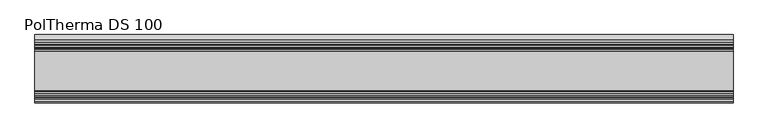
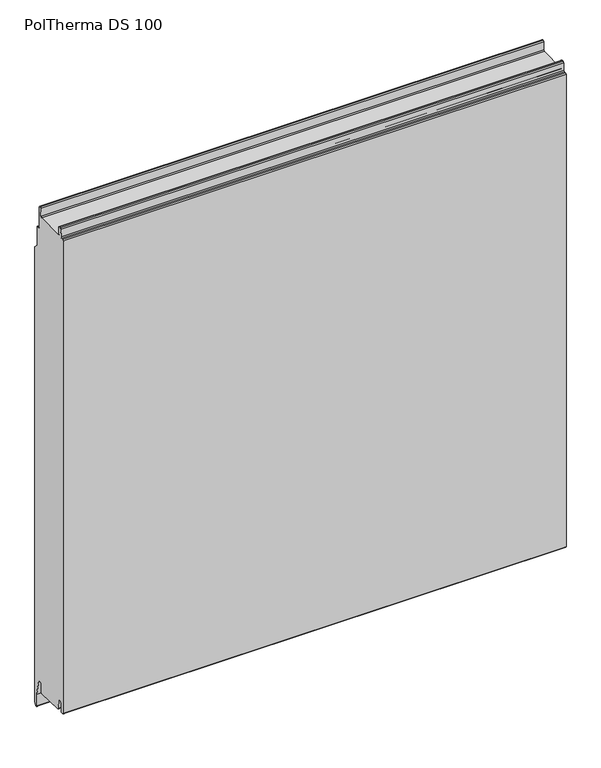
"""IFC4 building model written with IfcOpenShell, lengths in millimetres: plate geometry, Europanels_Poltherma DS_Hz : PolTherma DS 100."""

from ifc_helpers import new_model, si_unit, frame, origin, place, context, project, spatial, polyline, circle_curve, source, transform, mapped, element, save
from ifc_brep_helpers import plane_surface, cylinder_surface, revolved_surface, advanced_brep


def poltherma_ds_100_de707eb4(model_context):
    return source(origin(), model_context, "Body", "AdvancedBrep", [
        advanced_brep(
        [(512.5, 50.0, 25.6419265), (512.5, 50.0, 1006.0403652), (512.5, 41.9993224, 1014.5306815), (512.5, 41.9993224, 1053.783709), (512.5, 39.5003388, 1056.2826927), (512.5, 36.4964005, 1056.2826927), (512.5, 33.9927587, 1058.7863345), (512.5, 33.9927587, 1102.0320728), (512.5, 31.7320949, 1104.2927366), (512.5, 29.3625931, 1102.12865), (512.5, 28.6828547, 1085.5928147), (512.5, 26.3196392, 1083.2879082), (512.5, -31.7227962, 1081.7845566), (512.5, -33.7207985, 1083.6951741), (512.5, -34.4459609, 1099.8739391), (512.5, -36.4439626, 1101.784556), (512.5, -39.1932037, 1101.784556), (512.5, -41.1890147, 1099.9139331), (512.5, -42.2429781, 1083.6551788), (512.5, -44.2387891, 1081.784556), (512.5, -48.0, 1081.784556), (512.5, -50.0, 1079.784556), (512.5, -50.0, 61.7823467), (512.5, -48.0, 59.7823467), (512.5, -45.2728415, 59.7823467), (512.5, -43.283254, 61.5785287), (512.5, -42.3087485, 79.5912504), (512.5, -39.3243673, 82.2855234), (512.5, -36.3756985, 82.2855234), (512.5, -33.3927633, 79.6050511), (512.5, -32.3401385, 61.3459555), (512.5, -30.600093, 59.7823467), (512.5, 25.1828499, 58.2823467), (512.5, 27.6811293, 60.6896109), (512.5, 28.3408974, 78.4636008), (512.5, 30.834547, 80.7855234), (512.5, 34.241537, 80.7855234), (512.5, 36.5910205, 79.139881), (512.5, 43.0, 46.1009555), (512.5, 43.0, 20.9596348), (512.5, 46.7337298, 19.9625485), (-512.5, 50.0, 25.6419265), (-512.5, 46.7337298, 19.9625485), (-512.5, 43.0, 20.9596348), (-512.5, 43.0, 46.1009555), (-512.5, 36.5910205, 79.139881), (-512.5, 34.241537, 80.7855234), (-512.5, 30.834547, 80.7855234), (-512.5, 28.3408974, 78.4636008), (-512.5, 27.6811293, 60.6896109), (-512.5, 25.1828499, 58.2823467), (-512.5, -30.600093, 59.7823467), (-512.5, -32.3401385, 61.3459555), (-512.5, -33.3927633, 79.6050511), (-512.5, -36.3756985, 82.2855234), (-512.5, -39.3243673, 82.2855234), (-512.5, -42.3087485, 79.5912504), (-512.5, -43.283254, 61.5785287), (-512.5, -45.2728415, 59.7823467), (-512.5, -48.0, 59.7823467), (-512.5, -50.0, 61.7823467), (-512.5, -50.0, 1079.784556), (-512.5, -48.0, 1081.784556), (-512.5, -44.2387891, 1081.784556), (-512.5, -42.2429781, 1083.6551788), (-512.5, -41.1890147, 1099.9139331), (-512.5, -39.1932037, 1101.784556), (-512.5, -36.4439626, 1101.784556), (-512.5, -34.4459609, 1099.8739391), (-512.5, -33.7221833, 1083.6951728), (-512.5, -31.7227962, 1081.7845566), (-512.5, 26.3196392, 1083.2879082), (-512.5, 28.6828547, 1085.5928147), (-512.5, 29.3363956, 1102.1234406), (-512.5, 31.7320949, 1104.2927366), (-512.5, 33.9927587, 1102.0320728), (-512.5, 33.9927587, 1058.7863345), (-512.5, 36.4964005, 1056.2826927), (-512.5, 39.5003388, 1056.2826927), (-512.5, 41.9993224, 1053.783709), (-512.5, 41.9993224, 1014.5306815), (-512.5, 50.0, 1006.0403652)],
        [
            (0, 1),
            (1, 2),
            (2, 3),
            (3, 4, circle_curve(frame((512.5, 39.5003388, 1053.783709), z_axis=(1.0, 0.0, 0.0), x_axis=(0.0, 1.0, 0.0)), 2.4989837)),
            (4, 5),
            (5, 6, circle_curve(frame((512.5, 36.4964005, 1058.7863345), z_axis=(-1.0, 0.0, 0.0), x_axis=(0.0, 1.0, 0.0)), 2.5036418)),
            (6, 7),
            (7, 8, circle_curve(frame((512.5, 31.7320949, 1102.0320728), z_axis=(1.0, 0.0, 0.0), x_axis=(0.0, 1.0, 0.0)), 2.2606638)),
            (8, 9, circle_curve(frame((512.5, 31.6169847, 1102.0395223), z_axis=(1.0, 0.0, 0.0), x_axis=(0.0, 1.0, 0.0)), 2.2561527)),
            (9, 10),
            (10, 11, circle_curve(frame((512.5, 26.1902185, 1085.784556), z_axis=(-1.0, 0.0, 0.0), x_axis=(0.0, 1.0, 0.0)), 2.5)),
            (11, 12),
            (12, 13, circle_curve(frame((512.5, -31.7227962, 1083.7845572), z_axis=(-1.0, 0.0, 0.0), x_axis=(0.0, 1.0, 0.0)), 2.0000006)),
            (13, 14),
            (14, 15, circle_curve(frame((512.5, -36.4439626, 1099.784556), z_axis=(1.0, 0.0, 0.0), x_axis=(0.0, 1.0, 0.0)), 2.0)),
            (15, 16),
            (16, 17, circle_curve(frame((512.5, -39.1932037, 1099.784556), z_axis=(1.0, 0.0, 0.0), x_axis=(0.0, 1.0, 0.0)), 2.0)),
            (17, 18),
            (18, 19, circle_curve(frame((512.5, -44.2387891, 1083.784556), z_axis=(-1.0, 0.0, 0.0), x_axis=(0.0, 1.0, 0.0)), 2.0)),
            (19, 20),
            (20, 21, circle_curve(frame((512.5, -48.0, 1079.784556), z_axis=(1.0, 0.0, 0.0), x_axis=(0.0, 1.0, 0.0)), 2.0)),
            (21, 22),
            (22, 23, circle_curve(frame((512.5, -48.0, 61.7823467), z_axis=(1.0, 0.0, 0.0), x_axis=(0.0, 1.0, 0.0)), 2.0)),
            (23, 24),
            (24, 25, circle_curve(frame((512.5, -45.2728415, 61.7823467), z_axis=(1.0, 0.0, 0.0), x_axis=(0.0, 1.0, 0.0)), 2.0)),
            (25, 26),
            (26, 27, circle_curve(frame((512.5, -39.3243673, 79.2855234), z_axis=(-1.0, 0.0, 0.0), x_axis=(0.0, 1.0, 0.0)), 3.0)),
            (27, 28),
            (28, 29, circle_curve(frame((512.5, -36.3756985, 79.2855234), z_axis=(-1.0, 0.0, 0.0), x_axis=(0.0, 1.0, 0.0)), 3.0)),
            (29, 30),
            (30, 31, circle_curve(frame((512.5, -30.600093, 61.5323467), z_axis=(1.0, 0.0, 0.0), x_axis=(0.0, 1.0, 0.0)), 1.75)),
            (31, 32),
            (32, 33, circle_curve(frame((512.5, 25.1828499, 60.7823467), z_axis=(1.0, 0.0, 0.0), x_axis=(0.0, 1.0, 0.0)), 2.5)),
            (33, 34),
            (34, 35, circle_curve(frame((512.5, 30.834547, 78.2855234), z_axis=(-1.0, 0.0, 0.0), x_axis=(0.0, 1.0, 0.0)), 2.5)),
            (35, 36),
            (36, 37, circle_curve(frame((512.5, 34.241537, 78.2855234), z_axis=(-1.0, 0.0, 0.0), x_axis=(0.0, 1.0, 0.0)), 2.5)),
            (37, 38),
            (38, 39),
            (39, 40, circle_curve(frame((512.5, 45.0, 20.9596348), z_axis=(1.0, 0.0, 0.0), x_axis=(0.0, 1.0, 0.0)), 2.0)),
            (40, 0),
            (41, 42),
            (42, 43, circle_curve(frame((-512.5, 45.0, 20.9596348), z_axis=(-1.0, 0.0, 0.0), x_axis=(0.0, 1.0, 0.0)), 2.0)),
            (43, 44),
            (44, 45),
            (45, 46, circle_curve(frame((-512.5, 34.241537, 78.2855234), z_axis=(1.0, 0.0, 0.0), x_axis=(0.0, 1.0, 0.0)), 2.5)),
            (46, 47),
            (47, 48, circle_curve(frame((-512.5, 30.834547, 78.2855234), z_axis=(1.0, 0.0, 0.0), x_axis=(0.0, 1.0, 0.0)), 2.5)),
            (48, 49),
            (49, 50, circle_curve(frame((-512.5, 25.1828499, 60.7823467), z_axis=(-1.0, 0.0, 0.0), x_axis=(0.0, 1.0, 0.0)), 2.5)),
            (50, 51),
            (51, 52, circle_curve(frame((-512.5, -30.600093, 61.5323467), z_axis=(-1.0, 0.0, 0.0), x_axis=(0.0, 1.0, 0.0)), 1.75)),
            (52, 53),
            (53, 54, circle_curve(frame((-512.5, -36.3756985, 79.2855234), z_axis=(1.0, 0.0, 0.0), x_axis=(0.0, 1.0, 0.0)), 3.0)),
            (54, 55),
            (55, 56, circle_curve(frame((-512.5, -39.3243673, 79.2855234), z_axis=(1.0, 0.0, 0.0), x_axis=(0.0, 1.0, 0.0)), 3.0)),
            (56, 57),
            (57, 58, circle_curve(frame((-512.5, -45.2728415, 61.7823467), z_axis=(-1.0, 0.0, 0.0), x_axis=(0.0, 1.0, 0.0)), 2.0)),
            (58, 59),
            (59, 60, circle_curve(frame((-512.5, -48.0, 61.7823467), z_axis=(-1.0, 0.0, 0.0), x_axis=(0.0, 1.0, 0.0)), 2.0)),
            (60, 61),
            (61, 62, circle_curve(frame((-512.5, -48.0, 1079.784556), z_axis=(-1.0, 0.0, 0.0), x_axis=(0.0, 1.0, 0.0)), 2.0)),
            (62, 63),
            (63, 64, circle_curve(frame((-512.5, -44.2387891, 1083.784556), z_axis=(1.0, 0.0, 0.0), x_axis=(0.0, 1.0, 0.0)), 2.0)),
            (64, 65),
            (65, 66, circle_curve(frame((-512.5, -39.1932037, 1099.784556), z_axis=(-1.0, 0.0, 0.0), x_axis=(0.0, 1.0, 0.0)), 2.0)),
            (66, 67),
            (67, 68, circle_curve(frame((-512.5, -36.4439626, 1099.784556), z_axis=(-1.0, 0.0, 0.0), x_axis=(0.0, 1.0, 0.0)), 2.0)),
            (68, 69),
            (69, 70, circle_curve(frame((-512.5, -31.7227962, 1083.7845572), z_axis=(1.0, 0.0, 0.0), x_axis=(0.0, 1.0, 0.0)), 2.0000006)),
            (70, 71),
            (71, 72, circle_curve(frame((-512.5, 26.1902185, 1085.784556), z_axis=(1.0, 0.0, 0.0), x_axis=(0.0, 1.0, 0.0)), 2.5)),
            (72, 73),
            (73, 74, circle_curve(frame((-512.5, 31.6169847, 1102.0395223), z_axis=(-1.0, 0.0, 0.0), x_axis=(0.0, 1.0, 0.0)), 2.2561527)),
            (74, 75, circle_curve(frame((-512.5, 31.7320949, 1102.0320728), z_axis=(-1.0, 0.0, 0.0), x_axis=(0.0, 1.0, 0.0)), 2.2606638)),
            (75, 76),
            (76, 77, circle_curve(frame((-512.5, 36.4964005, 1058.7863345), z_axis=(1.0, 0.0, 0.0), x_axis=(0.0, 1.0, 0.0)), 2.5036418)),
            (77, 78),
            (78, 79, circle_curve(frame((-512.5, 39.5003388, 1053.783709), z_axis=(-1.0, 0.0, 0.0), x_axis=(0.0, 1.0, 0.0)), 2.4989837)),
            (79, 80),
            (80, 81),
            (81, 41),
            (0, 41),
            (81, 1),
            (80, 2),
            (79, 3),
            (78, 4),
            (77, 5),
            (76, 6),
            (75, 7),
            (74, 8),
            (73, 9),
            (72, 10),
            (71, 11),
            (70, 12),
            (69, 13),
            (68, 14),
            (67, 15),
            (66, 16),
            (65, 17),
            (64, 18),
            (63, 19),
            (62, 20),
            (61, 21),
            (60, 22),
            (59, 23),
            (58, 24),
            (57, 25),
            (56, 26),
            (55, 27),
            (54, 28),
            (53, 29),
            (52, 30),
            (51, 31),
            (50, 32),
            (49, 33),
            (48, 34),
            (47, 35),
            (46, 36),
            (45, 37),
            (44, 38),
            (43, 39),
            (42, 40),
        ],
        [
            plane_surface(frame((512.5, 50.0, 1006.0403652), z_axis=(1.0, 0.0, 0.0), x_axis=(0.0, 0.0, 1.0))),
            plane_surface(frame((-512.5, 50.0, 1006.0403652), z_axis=(-1.0, 0.0, 0.0), x_axis=(0.0, 0.0, -1.0))),
            plane_surface(frame((512.5, 50.0, 25.6419265), z_axis=(0.0, 1.0, 0.0), x_axis=(-1.0, 0.0, 0.0))),
            plane_surface(frame((512.5, 50.0, 1006.0403652), z_axis=(0.0, 0.7277809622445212, 0.6858096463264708), x_axis=(-1.0, 0.0, 0.0))),
            plane_surface(frame((512.5, 41.9993224, 1014.5306815), z_axis=(0.0, 1.0, 0.0), x_axis=(-1.0, 0.0, 0.0))),
            cylinder_surface(frame((-512.5, 39.5003388, 1053.783709), z_axis=(1.0, 0.0, 0.0), x_axis=(0.0, 1.0, 0.0)), 2.4989837),
            plane_surface(frame((512.5, 39.5003388, 1056.2826927), z_axis=(0.0, 0.0, 1.0), x_axis=(-1.0, 0.0, 0.0))),
            revolved_surface(polyline([(-512.5, 39.0000423, 1058.7863345), (512.5, 39.0000423, 1058.7863345)]), (-512.5, 36.4964005, 1058.7863345), (-1.0, 0.0, 0.0)),
            plane_surface(frame((512.5, 33.9927587, 1058.7863345), z_axis=(0.0, 1.0, 0.0), x_axis=(-1.0, 0.0, 0.0))),
            cylinder_surface(frame((-512.5, 31.7320949, 1102.0320728), z_axis=(1.0, 0.0, 0.0), x_axis=(0.0, 1.0, 0.0)), 2.2606638),
            cylinder_surface(frame((-512.5, 31.6169847, 1102.0395223), z_axis=(1.0, 0.0, 0.0), x_axis=(0.0, 1.0, 0.0)), 2.2561527),
            plane_surface(frame((512.5, 29.3363956, 1102.1234406), z_axis=(0.0, -0.9992194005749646, 0.03950429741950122), x_axis=(-1.0, 0.0, 0.0))),
            revolved_surface(polyline([(-512.5, 28.6902185, 1085.784556), (512.5, 28.6902185, 1085.784556)]), (-512.5, 26.1902185, 1085.784556), (-1.0, 0.0, 0.0)),
            plane_surface(frame((512.5, 26.3196392, 1083.2879082), z_axis=(0.0, -0.02589222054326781, 0.9996647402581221), x_axis=(-1.0, 0.0, 0.0))),
            revolved_surface(polyline([(-512.5, -29.7227956, 1083.7845572), (512.5, -29.7227956, 1083.7845572)]), (-512.5, -31.7227962, 1083.7845572), (-1.0, 0.0, 0.0)),
            plane_surface(frame((512.5, -33.7221833, 1083.6951728), z_axis=(0.0, 0.9990008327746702, 0.04469156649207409), x_axis=(-1.0, 0.0, 0.0))),
            cylinder_surface(frame((-512.5, -36.4439626, 1099.784556), z_axis=(1.0, 0.0, 0.0), x_axis=(0.0, 1.0, 0.0)), 2.0),
            plane_surface(frame((512.5, -36.4439626, 1101.784556), z_axis=(0.0, 0.0, 1.0), x_axis=(-1.0, 0.0, 0.0))),
            cylinder_surface(frame((-512.5, -39.1932037, 1099.784556), z_axis=(1.0, 0.0, 0.0), x_axis=(0.0, 1.0, 0.0)), 2.0),
            plane_surface(frame((512.5, -41.1890147, 1099.9139331), z_axis=(0.0, -0.9979054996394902, 0.0646885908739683), x_axis=(-1.0, 0.0, 0.0))),
            revolved_surface(polyline([(-512.5, -42.2387891, 1083.784556), (512.5, -42.2387891, 1083.784556)]), (-512.5, -44.2387891, 1083.784556), (-1.0, 0.0, 0.0)),
            plane_surface(frame((512.5, -44.2387891, 1081.784556), z_axis=(0.0, 0.0, 1.0), x_axis=(-1.0, 0.0, 0.0))),
            cylinder_surface(frame((-512.5, -48.0, 1079.784556), z_axis=(1.0, 0.0, 0.0), x_axis=(0.0, 1.0, 0.0)), 2.0),
            plane_surface(frame((512.5, -50.0, 1079.784556), z_axis=(0.0, -1.0, 0.0), x_axis=(-1.0, 0.0, 0.0))),
            cylinder_surface(frame((-512.5, -48.0, 61.7823467), z_axis=(1.0, 0.0, 0.0), x_axis=(0.0, 1.0, 0.0)), 2.0),
            plane_surface(frame((512.5, -48.0, 59.7823467), z_axis=(0.0, 6.948688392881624e-12, -1.0), x_axis=(-1.0, 0.0, 0.0))),
            cylinder_surface(frame((-512.5, -45.2728415, 61.7823467), z_axis=(1.0, 0.0, 0.0), x_axis=(0.0, 1.0, 0.0)), 2.0),
            plane_surface(frame((512.5, -43.283254, 61.5785287), z_axis=(0.0, 0.9985397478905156, -0.054021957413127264), x_axis=(-1.0, 0.0, 0.0))),
            revolved_surface(polyline([(-512.5, -36.3243673, 79.2855234), (512.5, -36.3243673, 79.2855234)]), (-512.5, -39.3243673, 79.2855234), (-1.0, 0.0, 0.0)),
            plane_surface(frame((512.5, -39.3243673, 82.2855234), z_axis=(0.0, 0.0, -1.0), x_axis=(-1.0, 0.0, 0.0))),
            revolved_surface(polyline([(-512.5, -33.3756985, 79.2855234), (512.5, -33.3756985, 79.2855234)]), (-512.5, -36.3756985, 79.2855234), (-1.0, 0.0, 0.0)),
            plane_surface(frame((512.5, -33.3927633, 79.6050511), z_axis=(0.0, -0.9983424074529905, -0.05755377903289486), x_axis=(-1.0, 0.0, 0.0))),
            cylinder_surface(frame((-512.5, -30.600093, 61.5323467), z_axis=(1.0, 0.0, 0.0), x_axis=(0.0, 1.0, 0.0)), 1.75),
            plane_surface(frame((512.5, -30.600093, 59.7823467), z_axis=(0.0, -0.026880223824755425, -0.99963866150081), x_axis=(-1.0, 0.0, 0.0))),
            cylinder_surface(frame((-512.5, 25.1828499, 60.7823467), z_axis=(1.0, 0.0, 0.0), x_axis=(0.0, 1.0, 0.0)), 2.5),
            plane_surface(frame((512.5, 27.6811293, 60.6896109), z_axis=(0.0, 0.9993117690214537, -0.037094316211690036), x_axis=(-1.0, 0.0, 0.0))),
            revolved_surface(polyline([(-512.5, 33.334547, 78.2855234), (512.5, 33.334547, 78.2855234)]), (-512.5, 30.834547, 78.2855234), (-1.0, 0.0, 0.0)),
            plane_surface(frame((512.5, 30.834547, 80.7855234), z_axis=(0.0, 0.0, -1.0), x_axis=(-1.0, 0.0, 0.0))),
            revolved_surface(polyline([(-512.5, 36.741537, 78.2855234), (512.5, 36.741537, 78.2855234)]), (-512.5, 34.241537, 78.2855234), (-1.0, 0.0, 0.0)),
            plane_surface(frame((512.5, 36.5910205, 79.139881), z_axis=(0.0, -0.981700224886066, -0.19043284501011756), x_axis=(-1.0, 0.0, 0.0))),
            plane_surface(frame((512.5, 43.0, 46.1009555), z_axis=(0.0, -1.0, 0.0), x_axis=(-1.0, 0.0, 0.0))),
            cylinder_surface(frame((-512.5, 45.0, 20.9596348), z_axis=(1.0, 0.0, 0.0), x_axis=(0.0, 1.0, 0.0)), 2.0),
            plane_surface(frame((512.5, 46.7337298, 19.9625485), z_axis=(0.0, 0.8668648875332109, -0.49854314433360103), x_axis=(-1.0, 0.0, 0.0))),
        ],
        [
            (0, [[1, 2, 3, 4, 5, 6, 7, 8, 9, 10, 11, 12, 13, 14, 15, 16, 17, 18, 19, 20, 21, 22, 23, 24, 25, 26, 27, 28, 29, 30, 31, 32, 33, 34, 35, 36, 37, 38, 39, 40, 41]]),
            (1, [[42, 43, 44, 45, 46, 47, 48, 49, 50, 51, 52, 53, 54, 55, 56, 57, 58, 59, 60, 61, 62, 63, 64, 65, 66, 67, 68, 69, 70, 71, 72, 73, 74, 75, 76, 77, 78, 79, 80, 81, 82]]),
            (2, [[-1, 83, -82, 84]]),
            (3, [[-2, -84, -81, 85]]),
            (4, [[-3, -85, -80, 86]]),
            (5, [[-4, -86, -79, 87]]),
            (6, [[-5, -87, -78, 88]]),
            (7, [[-6, -88, -77, 89]]),
            (8, [[-7, -89, -76, 90]]),
            (9, [[-8, -90, -75, 91]]),
            (10, [[-9, -91, -74, 92]]),
            (11, [[-10, -92, -73, 93]]),
            (12, [[-11, -93, -72, 94]]),
            (13, [[-12, -94, -71, 95]]),
            (14, [[-13, -95, -70, 96]]),
            (15, [[-14, -96, -69, 97]]),
            (16, [[-15, -97, -68, 98]]),
            (17, [[-16, -98, -67, 99]]),
            (18, [[-17, -99, -66, 100]]),
            (19, [[-18, -100, -65, 101]]),
            (20, [[-19, -101, -64, 102]]),
            (21, [[-20, -102, -63, 103]]),
            (22, [[-21, -103, -62, 104]]),
            (23, [[-22, -104, -61, 105]]),
            (24, [[-23, -105, -60, 106]]),
            (25, [[-24, -106, -59, 107]]),
            (26, [[-25, -107, -58, 108]]),
            (27, [[-26, -108, -57, 109]]),
            (28, [[-27, -109, -56, 110]]),
            (29, [[-28, -110, -55, 111]]),
            (30, [[-29, -111, -54, 112]]),
            (31, [[-30, -112, -53, 113]]),
            (32, [[-31, -113, -52, 114]]),
            (33, [[-32, -114, -51, 115]]),
            (34, [[-33, -115, -50, 116]]),
            (35, [[-34, -116, -49, 117]]),
            (36, [[-35, -117, -48, 118]]),
            (37, [[-36, -118, -47, 119]]),
            (38, [[-37, -119, -46, 120]]),
            (39, [[-38, -120, -45, 121]]),
            (40, [[-39, -121, -44, 122]]),
            (41, [[-40, -122, -43, 123]]),
            (42, [[-41, -123, -42, -83]]),
        ],
    ),
    ])


if __name__ == "__main__":
    model = new_model("IFC4")
    model_context = context("Model", 3, world=origin())
    ifc_project = project(units=[si_unit("LENGTHUNIT", "METRE", prefix="MILLI")], contexts=[model_context])
    site = spatial("IfcSite", under=ifc_project)
    building = spatial("IfcBuilding", under=site)
    placement = place(None, origin())
    poltherma_ds_100_shape = poltherma_ds_100_de707eb4(model_context)
    element("IfcPlate", 1, ObjectType="Europanels_Poltherma DS_Hz : PolTherma DS 100", at=placement, inside=building, context=model_context, shape_type="MappedRepresentation", body=[
        mapped(poltherma_ds_100_shape, transform((0.0, 0.0, 0.0), x_axis=(1.0, 0.0, 0.0), y_axis=(0.0, 1.0, 0.0), z_axis=(0.0, 0.0, 1.0))),
    ])
    save(model, "model.ifc")
